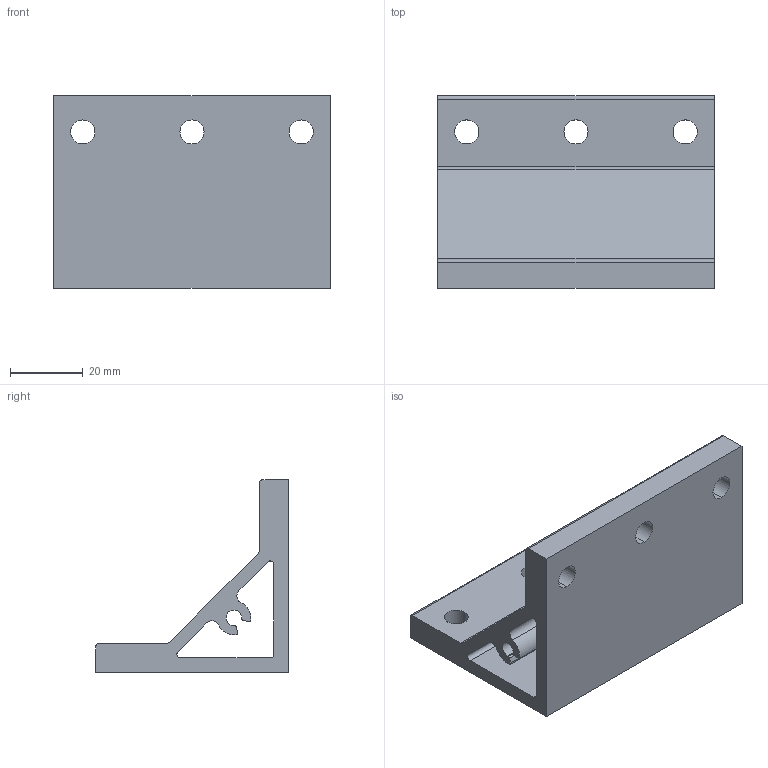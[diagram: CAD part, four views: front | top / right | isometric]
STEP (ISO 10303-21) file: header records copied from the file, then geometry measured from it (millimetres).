
FILE_DESCRIPTION (( 'STEP AP214' ), '1' );
FILE_NAME ('J3ARTN.step', '2017-05-24T07:37:44', ( 'admin' ), ( '' ), 'SwSTEP 2.0', 'SolidWorks 2014', '' );
FILE_SCHEMA (( 'AUTOMOTIVE_DESIGN' ));
Length unit declared in the file: millimetre
Products named in the file (1): J3ARTN
Bounding box: 76 x 53 x 53 mm (x, y, z)
Volume: 55724.8 mm3; surface area: 25685.5 mm2
Topology: 1 solids, 1 shells, 48 faces, 138 edges, 92 vertices
Faces by surface type: cylinder 33, plane 15
Entity records: 1670 total; most frequent: DIRECTION 302, CARTESIAN_POINT 279, ORIENTED_EDGE 276, EDGE_CURVE 138, AXIS2_PLACEMENT_3D 115, VERTEX_POINT 92, LINE 72, VECTOR 72
